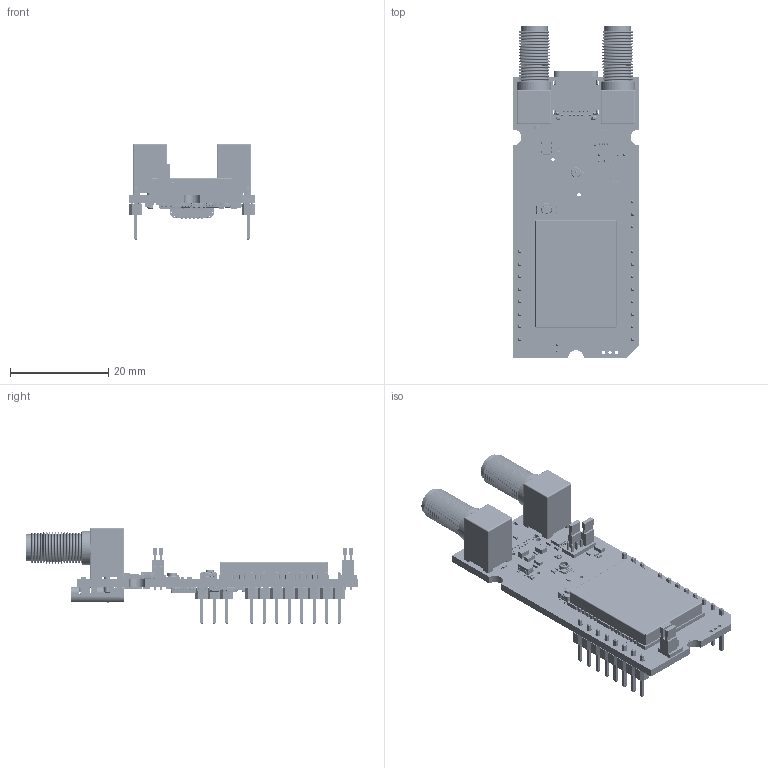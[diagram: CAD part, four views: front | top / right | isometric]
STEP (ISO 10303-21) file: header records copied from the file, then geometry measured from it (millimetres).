
FILE_DESCRIPTION (( 'STEP AP203' ), '1' );
FILE_NAME ('K15_Board_0_Rev2.1.STEP', '2021-08-31T00:20:24', ( '' ), ( '' ), 'SwSTEP 2.0', 'SolidWorks 2020', '' );
FILE_SCHEMA (( 'CONFIG_CONTROL_DESIGN' ));
Length unit declared in the file: millimetre
Products named in the file (279): Fairchild-Semi_VFSOP-8^U10_K15b0r2.1_210830; Kemet_0402_BB^C56_K15b0r2.1_210830; C36^K15b0r2.1_210830; Panasonic_ERJ2GE^R7_K15b0r2.1_210830; Kemet_0402_BB^C44_K15b0r2.1_210830; Kemet_0402_BB^C48_K15b0r2.1_210830; R59^K15b0r2.1_210830; R7^K15b0r2.1_210830; Kemet_0402_BB^C17_K15b0r2.1_210830; FB16^K15b0r2.1_210830; R27^K15b0r2.1_210830; Board^K15b0r2.1_210830; Panasonic_ERJ2GE^R39_K15b0r2.1_210830; R5^K15b0r2.1_210830; R28^K15b0r2.1_210830; TDK_MLF2012^L1_K15b0r2.1_210830; Fairchild-Semi_VFSOP-8^U4_K15b0r2.1_210830; L1^K15b0r2.1_210830; MP1^K15b0r2.1_210830; K15_BoardPads_Bot^K15b0r2.1_210830; C14^K15b0r2.1_210830; R57^K15b0r2.1_210830; D4^K15b0r2.1_210830; C6^K15b0r2.1_210830; Harwin_M50-2020005^MP5_K15b0r2.1_210830; J2^K15b0r2.1_210830; Kemet_0402_BB^C14_K15b0r2.1_210830; R40^K15b0r2.1_210830; R10^K15b0r2.1_210830; R15^K15b0r2.1_210830; Kemet_0402_BB^C22_K15b0r2.1_210830; Kemet_0402_BB^C23_K15b0r2.1_210830; S1^K15b0r2.1_210830; Kemet_0402_BB^C13_K15b0r2.1_210830; Panasonic_ERJ2GE^R24_K15b0r2.1_210830; R38^K15b0r2.1_210830; R56^K15b0r2.1_210830; J1^K15b0r2.1_210830; R30^K15b0r2.1_210830; Kemet_0402_BB^C40_K15b0r2.1_210830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
Assembly tree (278 placements, depth 3):
  K15_Board_0_Rev2.1
    Board^K15b0r2.1_210830
      Open CASCADE STEP translator 6.8 2.1.1^Board_K15b0r2.1_210830
    R67^K15b0r2.1_210830
      Panasonic_ERJ2GE^R67_K15b0r2.1_210830
    R65^K15b0r2.1_210830
      Panasonic_ERJ2GE^R65_K15b0r2.1_210830
    FB6^K15b0r2.1_210830
      Wurth-Elek_ML-SMD-Ferrite_0402^FB6_K15b0r2.1_210830
    FB5^K15b0r2.1_210830
      Wurth-Elek_ML-SMD-Ferrite_0402^FB5_K15b0r2.1_210830
    R59^K15b0r2.1_210830
      Panasonic_ERJ2GE^R59_K15b0r2.1_210830
    R58^K15b0r2.1_210830
      Panasonic_ERJ2GE^R58_K15b0r2.1_210830
    L1^K15b0r2.1_210830
      TDK_MLF2012^L1_K15b0r2.1_210830
    U3^K15b0r2.1_210830
      Fairchild-Semi_VFSOP-8^U3_K15b0r2.1_210830
    U12^K15b0r2.1_210830
      Texas-Instruments_VSSOP-8^U12_K15b0r2.1_210830
    U15^K15b0r2.1_210830
      Texas-Instruments_SC70-6_DCK^U15_K15b0r2.1_210830
    C57^K15b0r2.1_210830
      Kemet_0402_BB^C57_K15b0r2.1_210830
    C56^K15b0r2.1_210830
      Kemet_0402_BB^C56_K15b0r2.1_210830
    R63^K15b0r2.1_210830
      Panasonic_ERJ2GE^R63_K15b0r2.1_210830
    R61^K15b0r2.1_210830
      Panasonic_ERJ2GE^R61_K15b0r2.1_210830
    R60^K15b0r2.1_210830
      Panasonic_ERJ2GE^R60_K15b0r2.1_210830
    C55^K15b0r2.1_210830
      Kemet_0402_BB^C55_K15b0r2.1_210830
    S4^K15b0r2.1_210830
      Samtec_FTS-103-02-F-D^S4_K15b0r2.1_210830
    MP2^K15b0r2.1_210830
      Harwin_M50-2020005^MP2_K15b0r2.1_210830
    U4^K15b0r2.1_210830
      Fairchild-Semi_VFSOP-8^U4_K15b0r2.1_210830
    U14^K15b0r2.1_210830
      ON-Semi_DFN-6^U14_K15b0r2.1_210830
    R57^K15b0r2.1_210830
      Panasonic_ERJ2GE^R57_K15b0r2.1_210830
    C53^K15b0r2.1_210830
      Kemet_0402_BB^C53_K15b0r2.1_210830
    J3^K15b0r2.1_210830
      Hirose_U.FL-R-SMT-1^J3_K15b0r2.1_210830
    S2^K15b0r2.1_210830
      Sullins_PBC08SAAN^S2_K15b0r2.1_210830
    S1^K15b0r2.1_210830
      Sullins_PBC08SAAN^S1_K15b0r2.1_210830
    U6^K15b0r2.1_210830
      Texas-Instruments_VSSOP-8^U6_K15b0r2.1_210830
    U11^K15b0r2.1_210830
      Texas-Instruments_VSSOP-8^U11_K15b0r2.1_210830
    R56^K15b0r2.1_210830
      Panasonic_ERJ2GE^R56_K15b0r2.1_210830
    C52^K15b0r2.1_210830
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Bounding box: 25.4 x 67.41 x 19.65 mm (x, y, z)
Volume: 5763.3 mm3; surface area: 11104.9 mm2
Topology: 1019 solids, 1043 shells, 15254 faces, 35923 edges, 21985 vertices
Faces by surface type: plane 10521, cylinder 3419, sphere 1010, cone 184, bspline 113, torus 7
Entity records: 457695 total; most frequent: CARTESIAN_POINT 80628, DIRECTION 71790, ORIENTED_EDGE 69926, EDGE_CURVE 34963, VECTOR 27546, LINE 27546, AXIS2_PLACEMENT_3D 22122, VERTEX_POINT 21985
